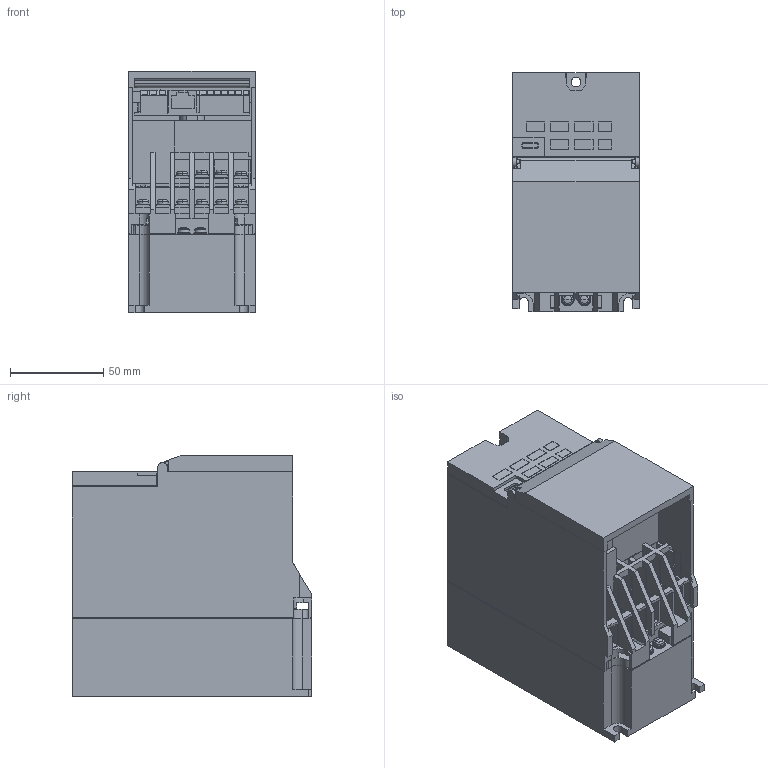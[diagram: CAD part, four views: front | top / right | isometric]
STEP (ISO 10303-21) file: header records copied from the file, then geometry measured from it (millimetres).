
FILE_DESCRIPTION((''),'2;1');
FILE_NAME('3D-INV-52_02_ASM','2024-11-29T10:17:51',('CT89920'),(''),'CREO PARAMETRIC BY PTC INC, 2022281','CREO PARAMETRIC BY PTC INC, 2022281','');
FILE_SCHEMA(('CONFIG_CONTROL_DESIGN','SHAPE_APPEARANCE_LAYERS_GROUPS'));
Length unit declared in the file: millimetre
Products named in the file (7): 3D-BASE-52_02E; 3D-TE_SHORT-51_01; 3D-TE_NEJI-M3_5X8-ZA7; 3D-TE-NEJI-51_02_ASM; 3D-SW-PW-P-M3_5X10; 3D-S_COV-D80-0_75; 3D-INV-52_02_ASM
Assembly tree (16 placements, depth 3):
  3D-INV-52_02_ASM
    3D-BASE-52_02E
    3D-TE-NEJI-51_02_ASM
      3D-TE_SHORT-51_01
      3D-TE_NEJI-M3_5X8-ZA7  x10
    3D-SW-PW-P-M3_5X10  x2
    3D-S_COV-D80-0_75
Bounding box: 68 x 128 x 129.5 mm (x, y, z)
Volume: 499319.7 mm3; surface area: 155683.8 mm2
Topology: 15 solids, 15 shells, 886 faces, 2406 edges, 1563 vertices
Faces by surface type: plane 720, cylinder 134, torus 24, cone 4, sphere 4
Entity records: 29022 total; most frequent: CARTESIAN_POINT 4290, ORIENTED_EDGE 4240, DIRECTION 3894, EDGE_CURVE 2120, VECTOR 1898, LINE 1898, VERTEX_POINT 1382, AXIS2_PLACEMENT_3D 998
